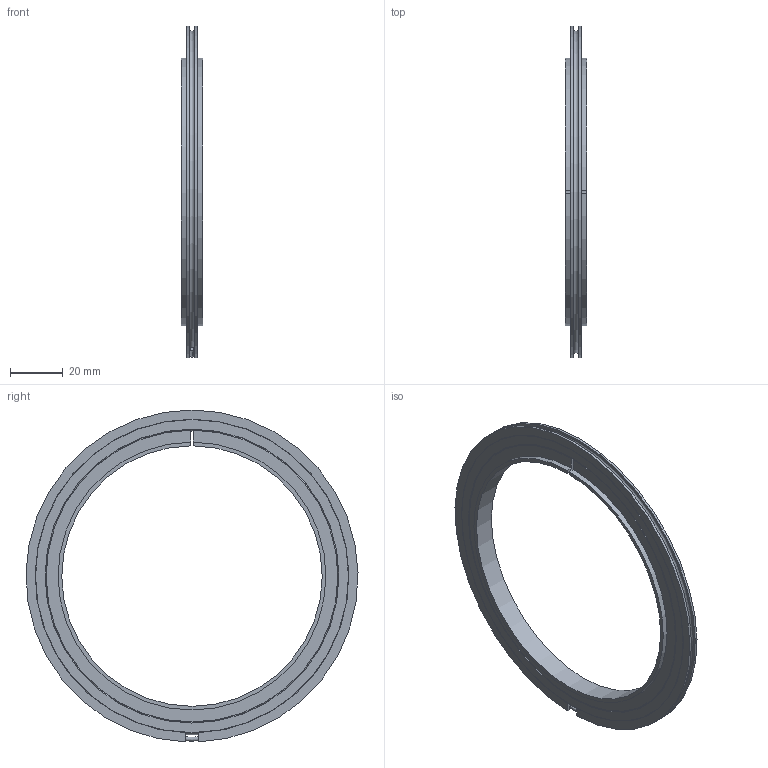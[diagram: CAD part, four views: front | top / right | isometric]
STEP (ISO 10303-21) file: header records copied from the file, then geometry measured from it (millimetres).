
FILE_DESCRIPTION((''),'2;1');
FILE_NAME('26842_88704_26806_SW0002','2016-01-22T',('l0100062'),('Copyright by Leybold GmbH'),'PRO/ENGINEER BY PARAMETRIC TECHNOLOGY CORPORATION, 2015280','PRO/ENGINEER BY PARAMETRIC TECHNOLOGY CORPORATION, 2015280','');
FILE_SCHEMA(('AUTOMOTIVE_DESIGN { 1 0 10303 214 1 1 1 1 }'));
Length unit declared in the file: millimetre
Products named in the file (1): 26842_88704_26806_SW0002
Bounding box: 8 x 126.18 x 126.15 mm (x, y, z)
Volume: 19144.8 mm3; surface area: 16620 mm2
Topology: 2 solids, 2 shells, 34 faces, 102 edges, 72 vertices
Faces by surface type: plane 16, cylinder 7, revolution 6, torus 5
Entity records: 1704 total; most frequent: CARTESIAN_POINT 404, ORIENTED_EDGE 204, DIRECTION 196, EDGE_CURVE 102, AXIS2_PLACEMENT_3D 80, VERTEX_POINT 72, CIRCLE 52, COLOUR_RGB 47
